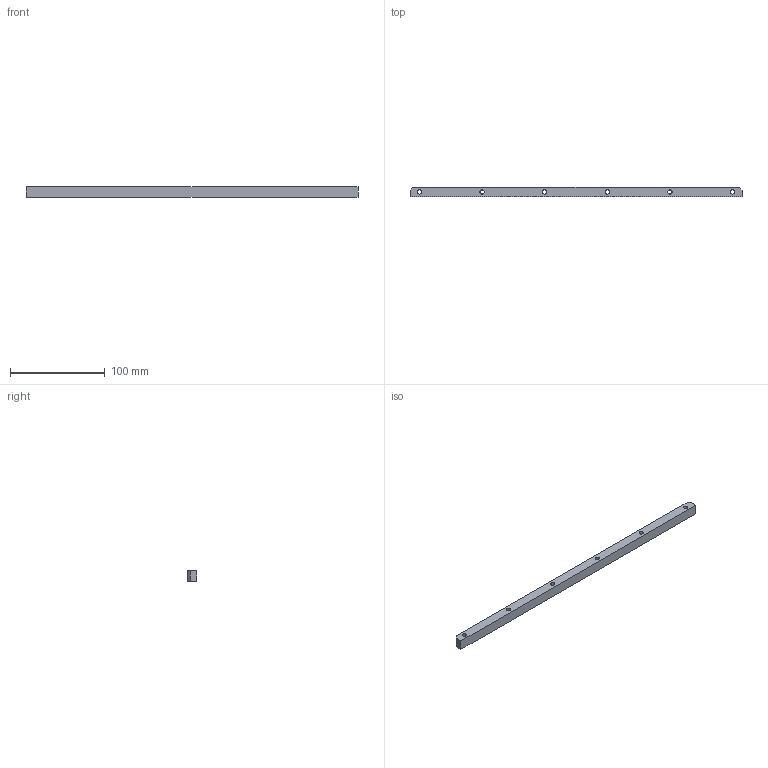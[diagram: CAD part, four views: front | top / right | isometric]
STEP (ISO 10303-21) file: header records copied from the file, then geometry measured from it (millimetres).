
FILE_DESCRIPTION(/* description */ (''),/* implementation_level */ '2;1');
FILE_NAME(/* name */ 'C:/#Projekte/Linear-Motor/STEP/spacer.step',/* time_stamp */ '2019-01-19T09:46:06+01:00',/* author */ (''),/* organization */ (''),/* preprocessor_version */ 'ST-DEVELOPER v17.2',/* originating_system */ 'Autodesk Translation Framework v7.6.0.251',/* authorisation */ '');
FILE_SCHEMA (('AUTOMOTIVE_DESIGN { 1 0 10303 214 3 1 1 }'));
Length unit declared in the file: millimetre
Products named in the file (1): Abstandshalter Magnethalter
Bounding box: 350 x 10 x 11 mm (x, y, z)
Volume: 37351.3 mm3; surface area: 15605.5 mm2
Topology: 1 solids, 1 shells, 14 faces, 36 edges, 24 vertices
Faces by surface type: plane 8, cylinder 6
Full cylindrical faces by diameter (mm): 4.5 x6
Entity records: 496 total; most frequent: DIRECTION 78, CARTESIAN_POINT 75, ORIENTED_EDGE 72, EDGE_CURVE 36, AXIS2_PLACEMENT_3D 27, EDGE_LOOP 26, LINE 24, VECTOR 24
